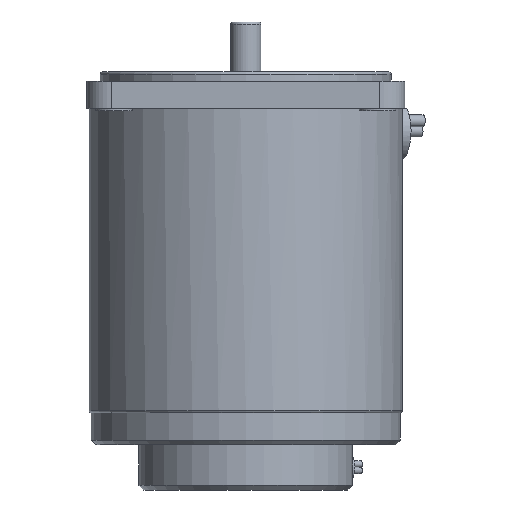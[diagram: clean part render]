
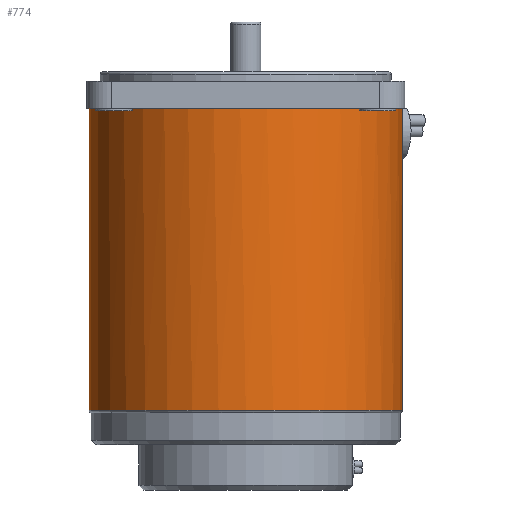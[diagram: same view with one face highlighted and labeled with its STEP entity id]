
A CAD part, front view. The second image highlights one B-rep face of the part: STEP entity #774.
In plain terms, the highlighted cylindrical face has radius 34.5 mm (diameter 69 mm), a full revolution.
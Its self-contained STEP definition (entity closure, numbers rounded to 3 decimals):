
#693=CARTESIAN_POINT('',(30.053,16.944,74.0));
#694=VERTEX_POINT('',#693);
#695=CARTESIAN_POINT('',(33.231,9.269,74.0));
#696=VERTEX_POINT('',#695);
#697=CARTESIAN_POINT('',(30.053,16.944,74.0));
#698=CARTESIAN_POINT('',(29.976,17.08,73.871));
#699=CARTESIAN_POINT('',(29.901,17.21,73.735));
#700=CARTESIAN_POINT('',(29.539,17.834,73.02));
#701=CARTESIAN_POINT('',(29.271,18.264,72.291));
#702=CARTESIAN_POINT('',(28.909,18.832,70.69));
#703=CARTESIAN_POINT('',(28.816,18.971,69.818));
#704=CARTESIAN_POINT('',(28.816,18.971,68.182));
#705=CARTESIAN_POINT('',(28.909,18.832,67.31));
#706=CARTESIAN_POINT('',(29.271,18.264,65.709));
#707=CARTESIAN_POINT('',(29.539,17.834,64.98));
#708=CARTESIAN_POINT('',(30.123,16.829,63.828));
#709=CARTESIAN_POINT('',(30.478,16.186,63.328));
#710=CARTESIAN_POINT('',(31.198,14.751,62.664));
#711=CARTESIAN_POINT('',(31.561,13.959,62.5));
#712=CARTESIAN_POINT('',(32.187,12.447,62.5));
#713=CARTESIAN_POINT('',(32.491,11.629,62.664));
#714=CARTESIAN_POINT('',(32.996,10.106,63.328));
#715=CARTESIAN_POINT('',(33.2,9.4,63.828));
#716=CARTESIAN_POINT('',(33.498,8.277,64.98));
#717=CARTESIAN_POINT('',(33.612,7.783,65.709));
#718=CARTESIAN_POINT('',(33.758,7.125,67.31));
#719=CARTESIAN_POINT('',(33.79,6.961,68.182));
#720=CARTESIAN_POINT('',(33.79,6.961,69.0));
#721=CARTESIAN_POINT('',(33.79,6.961,69.818));
#722=CARTESIAN_POINT('',(33.758,7.125,70.69));
#723=CARTESIAN_POINT('',(33.612,7.783,72.291));
#724=CARTESIAN_POINT('',(33.498,8.277,73.02));
#725=CARTESIAN_POINT('',(33.313,8.974,73.735));
#726=CARTESIAN_POINT('',(33.274,9.118,73.871));
#727=CARTESIAN_POINT('',(33.231,9.269,74.0));
#728=B_SPLINE_CURVE_WITH_KNOTS('',3,(#697,#698,#699,#700,#701,#702,#703,#704,#705,#706,#707,#708,#709,#710,#711,#712,#713,#714,#715,#716,#717,#718,#719,#720,#721,#722,#723,#724,#725,#726,#727),.UNSPECIFIED.,.F.,.U.,(4,2,2,2,2,2,2,2,2,2,2,3,2,2,4),(-2.514,-2.455,-2.209,-1.964,-1.718,-1.473,-1.227,-0.982,-0.736,-0.491,-0.245,0.0,0.245,0.491,0.55),.UNSPECIFIED.);
#729=EDGE_CURVE('',#694,#696,#728,.T.);
#748=CARTESIAN_POINT('',(0.0,0.0,0.0));
#749=DIRECTION('',(0.0,0.0,1.0));
#750=DIRECTION('',(-1.0,0.0,0.0));
#751=AXIS2_PLACEMENT_3D('',#748,#749,#750);
#752=CYLINDRICAL_SURFACE('',#751,34.5);
#753=CARTESIAN_POINT('',(-34.5,0.,7.5));
#754=VERTEX_POINT('',#753);
#755=CARTESIAN_POINT('',(0.0,0.0,7.5));
#756=DIRECTION('',(0.0,0.0,-1.0));
#757=DIRECTION('',(1.0,0.0,0.0));
#758=AXIS2_PLACEMENT_3D('',#755,#756,#757);
#759=CIRCLE('',#758,34.5);
#760=EDGE_CURVE('',#754,#754,#759,.T.);
#761=ORIENTED_EDGE('',*,*,#760,.F.);
#762=EDGE_LOOP('',(#761));
#763=FACE_OUTER_BOUND('',#762,.T.);
#764=ORIENTED_EDGE('',*,*,#729,.T.);
#765=CARTESIAN_POINT('',(0.0,0.0,74.0));
#766=DIRECTION('',(0.0,0.0,-1.0));
#767=DIRECTION('',(-1.0,0.0,0.0));
#768=AXIS2_PLACEMENT_3D('',#765,#766,#767);
#769=CIRCLE('',#768,34.5);
#770=EDGE_CURVE('',#696,#694,#769,.T.);
#771=ORIENTED_EDGE('',*,*,#770,.T.);
#772=EDGE_LOOP('',(#764,#771));
#773=FACE_BOUND('',#772,.T.);
#774=ADVANCED_FACE('',(#763,#773),#752,.T.);
